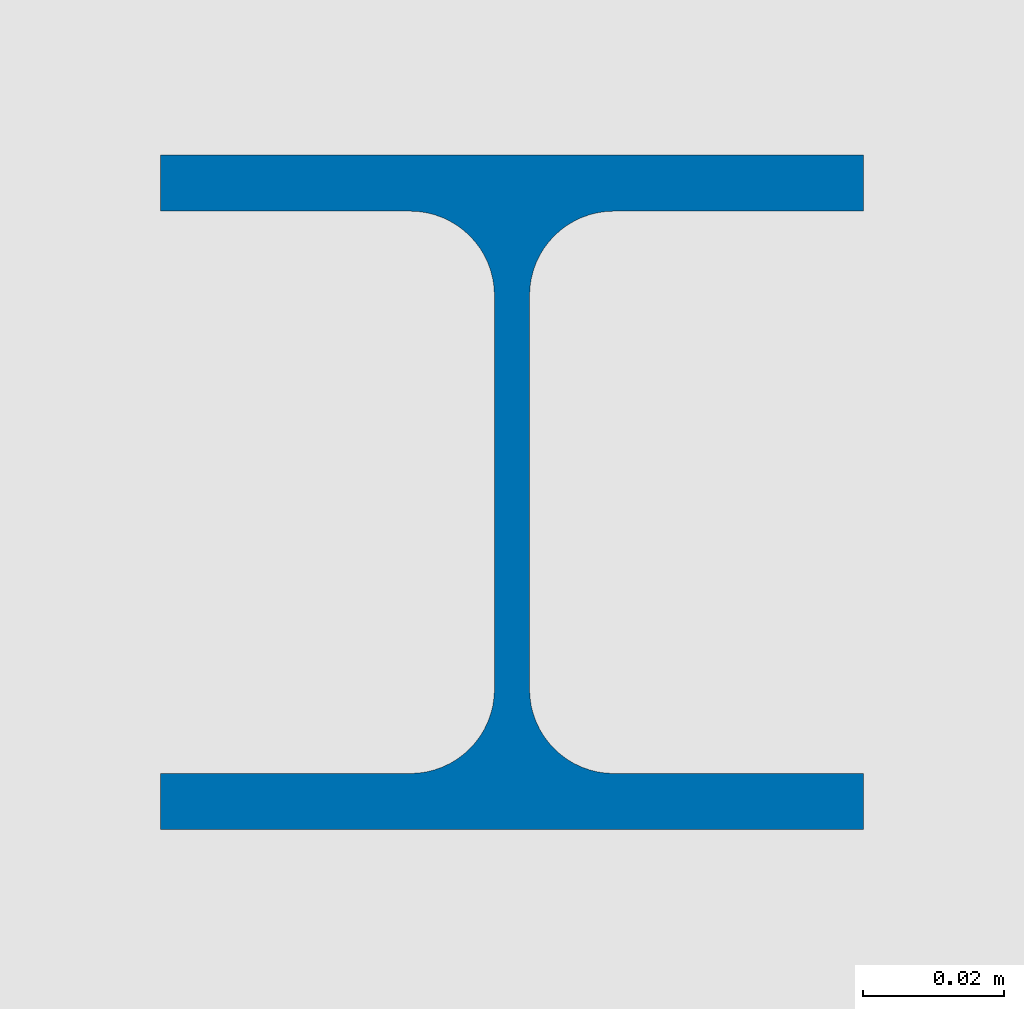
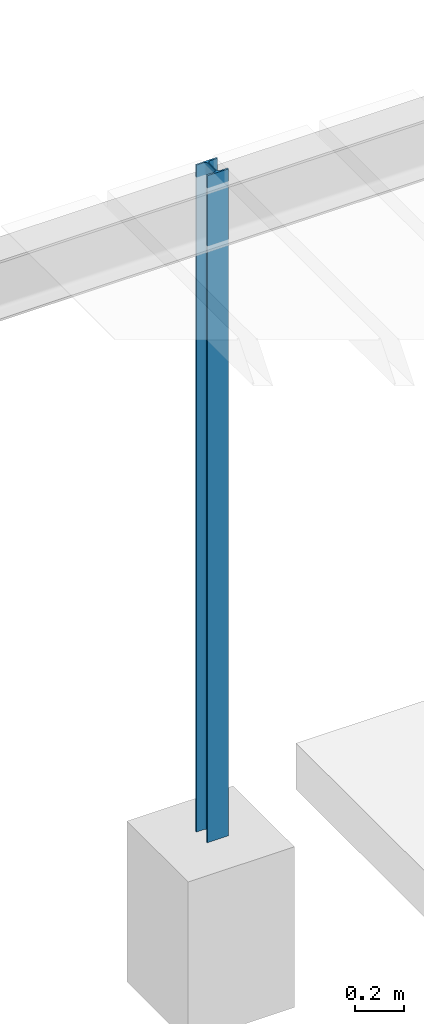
# One storey, part 2 of 28: 1 column.
"""IFC4X3_ADD2 building model written with IfcOpenShell, lengths in metres."""

from ifc_helpers import new_model, si_unit, direction, frame, origin_with_axes, place, context, subcontext, project, spatial, polyline, outline, extrude, source, transform, mapped, material, type_object, type_shapes, element, save


model = new_model("IFC4X3_ADD2")

# Units and contexts
model_context = context("Model", 3, precision=1e-05, world=origin_with_axes(), true_north=direction((0.0, 1.0)))
body_context = subcontext(model_context, "Body", "Model", "MODEL_VIEW")
ifc_project = project(units=[si_unit("LENGTHUNIT", "METRE"), si_unit("AREAUNIT", "SQUARE_METRE"), si_unit("VOLUMEUNIT", "CUBIC_METRE"), si_unit("PLANEANGLEUNIT", "RADIAN"), si_unit("TIMEUNIT", "SECOND"), si_unit("MASSUNIT", "GRAM")], contexts=[model_context])

# Site, building, storey
site_placement = place(None, origin_with_axes())
site = spatial("IfcSite", under=ifc_project, at=site_placement, Name="Site", CompositionType="ELEMENT")
building_placement = place(site_placement, origin_with_axes())
building = spatial("IfcBuilding", under=site, at=building_placement, Name="Default Building")
storey_placement = place(building_placement, frame((0.0, 0.0, -0.08), z_axis=(0.0, 0.0, 1.0), x_axis=(1.0, 0.0, 0.0)))
storey = spatial("IfcBuildingStorey", under=building, at=storey_placement, Name="Gruendung", Elevation=-0.08)

# Column
ifc_material = material(Name="Default")
column_type = type_object("IfcColumnType", Name="IfcColumn", PredefinedType="NOTDEFINED")
shared_shape = source(origin_with_axes(), body_context, "Body", "SweptSolid", [
    extrude(outline(polyline([(-0.0499995, -0.04799997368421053), (-0.0499995, -0.03999997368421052), (-0.0144995, -0.03999997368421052), (-0.0133235, -0.03994197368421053), (-0.0121585, -0.03976897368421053), (-0.0110165, -0.03948297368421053), (-0.0099075, -0.03908697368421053), (-0.0088425, -0.03858297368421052), (-0.0078325, -0.03797797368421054), (-0.006886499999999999, -0.03727597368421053), (-0.006014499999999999, -0.03648497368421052), (-0.005223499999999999, -0.03561297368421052), (-0.004521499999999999, -0.03466697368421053), (-0.003916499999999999, -0.03365697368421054), (-0.003412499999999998, -0.03259197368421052), (-0.003016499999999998, -0.03148297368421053), (-0.002730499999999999, -0.03034097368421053), (-0.002557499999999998, -0.02917597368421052), (-0.002499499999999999, -0.02799997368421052), (-0.002499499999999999, 0.02800002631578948), (-0.002557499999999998, 0.02917602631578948), (-0.002730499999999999, 0.03034102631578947), (-0.003016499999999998, 0.03148302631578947), (-0.003412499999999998, 0.03259202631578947), (-0.003916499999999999, 0.03365702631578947), (-0.004521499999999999, 0.03466702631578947), (-0.005223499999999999, 0.03561302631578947), (-0.006014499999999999, 0.03648502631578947), (-0.006886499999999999, 0.03727602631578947), (-0.0078325, 0.03797802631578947), (-0.0088425, 0.03858302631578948), (-0.0099075, 0.03908702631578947), (-0.0110165, 0.03948302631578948), (-0.0121585, 0.03976902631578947), (-0.0133235, 0.03994202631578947), (-0.0144995, 0.04000002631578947), (-0.0499995, 0.04000002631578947), (-0.0499995, 0.04799902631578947), (0.0499995, 0.04799902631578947), (0.0499995, 0.04000002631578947), (0.0144995, 0.04000002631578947), (0.0133235, 0.03994202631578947), (0.0121585, 0.03976902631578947), (0.0110165, 0.03948302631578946), (0.009907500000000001, 0.03908702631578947), (0.008842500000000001, 0.03858302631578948), (0.007832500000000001, 0.03797802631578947), (0.006886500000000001, 0.03727602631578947), (0.006014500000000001, 0.03648502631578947), (0.005223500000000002, 0.03561302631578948), (0.004521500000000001, 0.03466702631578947), (0.003916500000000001, 0.03365702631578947), (0.003412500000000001, 0.03259202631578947), (0.003016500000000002, 0.03148302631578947), (0.002730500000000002, 0.03034102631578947), (0.002557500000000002, 0.02917602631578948), (0.002499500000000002, 0.02800002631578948), (0.002499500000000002, -0.02799997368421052), (0.002557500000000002, -0.02917597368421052), (0.002730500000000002, -0.03034097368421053), (0.003016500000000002, -0.03148297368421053), (0.003412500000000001, -0.03259197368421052), (0.003916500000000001, -0.03365697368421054), (0.004521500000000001, -0.03466697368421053), (0.005223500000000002, -0.03561297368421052), (0.006014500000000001, -0.03648497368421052), (0.006886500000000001, -0.03727597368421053), (0.007832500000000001, -0.03797797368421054), (0.008842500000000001, -0.03858297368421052), (0.009907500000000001, -0.03908697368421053), (0.0110165, -0.03948297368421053), (0.0121585, -0.03976897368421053), (0.0133235, -0.03994197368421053), (0.0144995, -0.03999997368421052), (0.0499995, -0.03999997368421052), (0.0499995, -0.04799997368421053), (-0.0499995, -0.04799997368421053)])), frame((4.999999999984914e-07, 9.736842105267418e-07, -0.3599999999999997), z_axis=(0.0, 0.0, 1.0), x_axis=(1.0, 0.0, 0.0)), (0.0, 0.0, 1.0), 3.320000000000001),
])
type_shapes(column_type, [shared_shape])
column_placement = place(storey_placement, frame((0.0, 22.0, 0.08), z_axis=(0.0, 0.0, 1.0), x_axis=(1.0, 0.0, 0.0)))
element("IfcColumn", 1, at=column_placement, inside=storey, type_object=column_type, material=ifc_material, Name="IfcColumn", ObjectType="Custom_2", context=body_context, shape_type="MappedRepresentation", body=[
    mapped(shared_shape, transform((0.0, 0.0, 0.0))),
])

save(model, "model.ifc")
